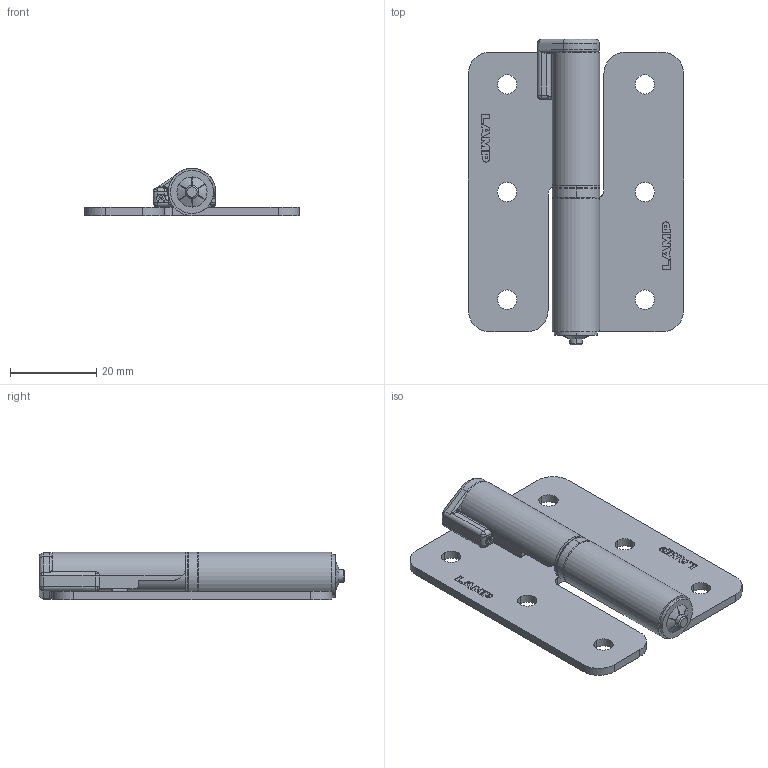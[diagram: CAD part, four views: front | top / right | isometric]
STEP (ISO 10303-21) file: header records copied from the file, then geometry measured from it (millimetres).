
FILE_DESCRIPTION (( 'STEP AP203' ), '1' );
FILE_NAME ('hg-knt7l_2.step', '2023-08-23T04:37:26', ( '' ), ( '' ), 'SwSTEP 2.0', 'SolidWorks 2022', '' );
FILE_SCHEMA (( 'CONFIG_CONTROL_DESIGN' ));
Length unit declared in the file: millimetre
Products named in the file (4): SC170-18085_HG-KNT7L_筐体側; hg-knt7l_2; SC170-15970_HG-KNT7L_羽根; SC170-15973_HG-KNT7L_ホルダ_公開用
Assembly tree (3 placements, depth 2):
  hg-knt7l_2
    SC170-18085_HG-KNT7L_筐体側
    SC170-15970_HG-KNT7L_羽根
    SC170-15973_HG-KNT7L_ホルダ_公開用
Bounding box: 50 x 71 x 11 mm (x, y, z)
Volume: 11307.4 mm3; surface area: 10832.6 mm2
Topology: 3 solids, 3 shells, 479 faces, 1315 edges, 842 vertices
Faces by surface type: plane 308, cylinder 95, bspline 48, cone 25, torus 3
Entity records: 17904 total; most frequent: CARTESIAN_POINT 5665, ORIENTED_EDGE 2604, DIRECTION 2255, EDGE_CURVE 1302, LINE 883, VECTOR 883, VERTEX_POINT 842, AXIS2_PLACEMENT_3D 686
